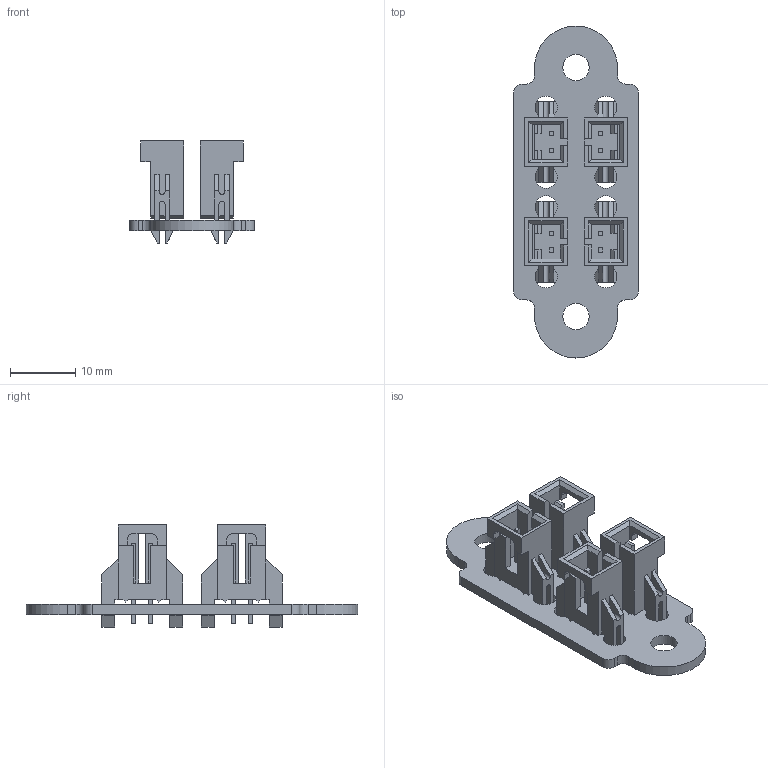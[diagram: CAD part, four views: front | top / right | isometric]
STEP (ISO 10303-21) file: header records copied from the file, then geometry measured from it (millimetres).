
FILE_DESCRIPTION(('KiCad electronic assembly'),'2;1');
FILE_NAME('TEE-CAN-SL.step','2024-10-14T22:48:01',('Pcbnew'),('Kicad'), 'Open CASCADE STEP processor 7.6','KiCad to STEP converter','Unknown' );
FILE_SCHEMA(('AUTOMOTIVE_DESIGN { 1 0 10303 214 1 1 1 1 }'));
Length unit declared in the file: millimetre
Products named in the file (4): TEE-CAN-SL 1; 70541-0036; 705410036; TEE-CAN-SL_PCB
Assembly tree (6 placements, depth 3):
  TEE-CAN-SL 1
    70541-0036  x4
      705410036
    TEE-CAN-SL_PCB
Bounding box: 19.05 x 50.8 x 15.62 mm (x, y, z)
Volume: 2504.7 mm3; surface area: 4891.6 mm2
Topology: 5 solids, 5 shells, 460 faces, 1334 edges, 924 vertices
Faces by surface type: plane 408, cylinder 52
Full cylindrical faces by diameter (mm): 1.092 x8, 3.404 x8, 4.039 x2
Entity records: 4904 total; most frequent: CARTESIAN_POINT 859, ORIENTED_EDGE 822, DIRECTION 799, EDGE_CURVE 411, LINE 343, VECTOR 343, VERTEX_POINT 272, AXIS2_PLACEMENT_3D 228
